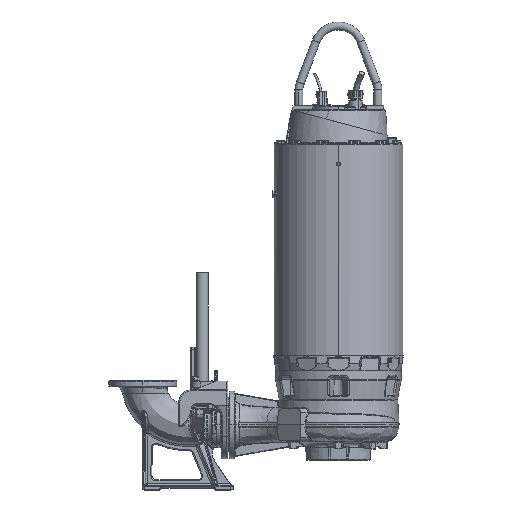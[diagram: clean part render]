
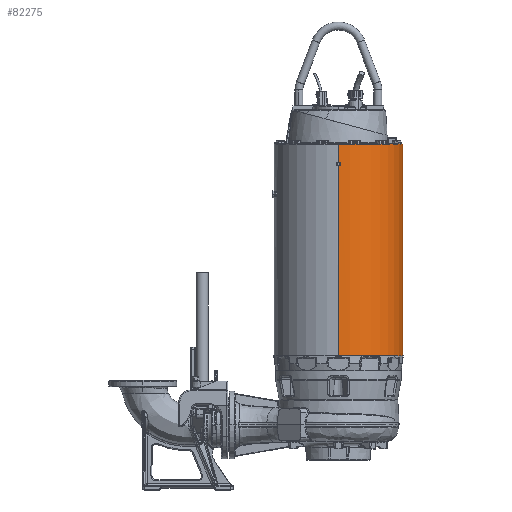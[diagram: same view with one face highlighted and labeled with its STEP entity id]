
A CAD part, top view. The second image highlights one B-rep face of the part: STEP entity #82275.
In plain terms, the highlighted cylindrical face has radius 322 mm (diameter 644 mm), a partial arc.
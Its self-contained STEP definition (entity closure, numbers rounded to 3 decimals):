
#2586 = CARTESIAN_POINT ( 'NONE',  ( 0., 1040., 0. ) ) ;
#5461 = DIRECTION ( 'NONE',  ( 0., -1., 0. ) ) ;
#7152 = DIRECTION ( 'NONE',  ( 0., -1., 0. ) ) ;
#9539 = CARTESIAN_POINT ( 'NONE',  ( 0., 950.97, 322. ) ) ;
#9601 = CARTESIAN_POINT ( 'NONE',  ( 0., 0., -322. ) ) ;
#14701 = DIRECTION ( 'NONE',  ( 0., -1., 0. ) ) ;
#25312 = AXIS2_PLACEMENT_3D ( 'NONE', #2586, #170824, #26815 ) ;
#26815 = DIRECTION ( 'NONE',  ( 0., 0., -1. ) ) ;
#26962 = VECTOR ( 'NONE', #202034, 1000. ) ;
#29564 = VERTEX_POINT ( 'NONE', #214601 ) ;
#38293 = EDGE_CURVE ( 'NONE', #133789, #164448, #212476, .T. ) ;
#39375 =( BOUNDED_CURVE ( )  B_SPLINE_CURVE ( 3, ( #234134, #262766, #114272, #282441 ),
 .UNSPECIFIED., .F., .F. ) 
 B_SPLINE_CURVE_WITH_KNOTS ( ( 4, 4 ),
 ( 1.571, 1.6 ),
 .UNSPECIFIED. ) 
 CURVE ( )  GEOMETRIC_REPRESENTATION_ITEM ( )  RATIONAL_B_SPLINE_CURVE ( ( 1., 1., 1., 1. ) ) 
 REPRESENTATION_ITEM ( '' )  );
#40856 = CARTESIAN_POINT ( 'NONE',  ( 0., -20., 322. ) ) ;
#44750 = EDGE_CURVE ( 'NONE', #275839, #278725, #213813, .T. ) ;
#59184 = CIRCLE ( 'NONE', #25312, 322. ) ;
#59469 = CARTESIAN_POINT ( 'NONE',  ( 9.5, 934.515, 321.86 ) ) ;
#63510 = CARTESIAN_POINT ( 'NONE',  ( 3.167, 930.859, -322. ) ) ;
#63982 = ORIENTED_EDGE ( 'NONE', *, *, #294024, .F. ) ;
#71267 = ORIENTED_EDGE ( 'NONE', *, *, #159444, .T. ) ;
#72684 = VERTEX_POINT ( 'NONE', #72911 ) ;
#72911 = CARTESIAN_POINT ( 'NONE',  ( 0., 929.03, -322. ) ) ;
#73998 = ORIENTED_EDGE ( 'NONE', *, *, #294832, .T. ) ;
#76657 = EDGE_CURVE ( 'NONE', #289384, #176130, #59184, .T. ) ;
#77259 = CARTESIAN_POINT ( 'NONE',  ( 0., 929.03, 322. ) ) ;
#77800 = VERTEX_POINT ( 'NONE', #159930 ) ;
#79130 = VECTOR ( 'NONE', #247537, 1000. ) ;
#80123 = ORIENTED_EDGE ( 'NONE', *, *, #44750, .T. ) ;
#82275 = ADVANCED_FACE ( 'NONE', ( #212090 ), #245817, .T. ) ;
#89362 = EDGE_CURVE ( 'NONE', #302667, #77800, #39375, .T. ) ;
#92975 =( BOUNDED_CURVE ( )  B_SPLINE_CURVE ( 3, ( #181354, #303262, #63510, #231767 ),
 .UNSPECIFIED., .F., .F. ) 
 B_SPLINE_CURVE_WITH_KNOTS ( ( 4, 4 ),
 ( 1.541, 1.571 ),
 .UNSPECIFIED. ) 
 CURVE ( )  GEOMETRIC_REPRESENTATION_ITEM ( )  RATIONAL_B_SPLINE_CURVE ( ( 1., 1., 1., 1. ) ) 
 REPRESENTATION_ITEM ( '' )  );
#107294 = CARTESIAN_POINT ( 'NONE',  ( 0., 1040., 322. ) ) ;
#109316 = VECTOR ( 'NONE', #7152, 1000. ) ;
#112091 = CARTESIAN_POINT ( 'NONE',  ( 6.334, 932.687, 321.953 ) ) ;
#114272 = CARTESIAN_POINT ( 'NONE',  ( 6.334, 947.313, -321.953 ) ) ;
#119953 = CARTESIAN_POINT ( 'NONE',  ( 0., 950.97, 322. ) ) ;
#124897 = CARTESIAN_POINT ( 'NONE',  ( 9.5, 1180.349, 321.86 ) ) ;
#125296 = CARTESIAN_POINT ( 'NONE',  ( 0., 0., 0. ) ) ;
#125337 = EDGE_CURVE ( 'NONE', #275232, #203838, #161463, .T. ) ;
#128978 = ORIENTED_EDGE ( 'NONE', *, *, #153021, .F. ) ;
#129907 = EDGE_CURVE ( 'NONE', #77800, #29564, #291007, .T. ) ;
#133789 = VERTEX_POINT ( 'NONE', #222350 ) ;
#136793 = ORIENTED_EDGE ( 'NONE', *, *, #38293, .F. ) ;
#139316 = ORIENTED_EDGE ( 'NONE', *, *, #125337, .T. ) ;
#145210 = CARTESIAN_POINT ( 'NONE',  ( 0., 950.97, -322. ) ) ;
#153021 = EDGE_CURVE ( 'NONE', #72684, #133789, #161885, .T. ) ;
#153593 = CARTESIAN_POINT ( 'NONE',  ( 3.167, 949.141, 322. ) ) ;
#154329 = VECTOR ( 'NONE', #295135, 1000. ) ;
#158131 = AXIS2_PLACEMENT_3D ( 'NONE', #158810, #14701, #182968 ) ;
#158810 = CARTESIAN_POINT ( 'NONE',  ( 0., -20., 0. ) ) ;
#159444 = EDGE_CURVE ( 'NONE', #278725, #275232, #301191, .T. ) ;
#159930 = CARTESIAN_POINT ( 'NONE',  ( 9.5, 945.485, -321.86 ) ) ;
#160533 = CARTESIAN_POINT ( 'NONE',  ( 0., 929.03, 322. ) ) ;
#161463 =( BOUNDED_CURVE ( )  B_SPLINE_CURVE ( 3, ( #280273, #112091, #304516, #160533 ),
 .UNSPECIFIED., .F., .F. ) 
 B_SPLINE_CURVE_WITH_KNOTS ( ( 4, 4 ),
 ( 1.541, 1.571 ),
 .UNSPECIFIED. ) 
 CURVE ( )  GEOMETRIC_REPRESENTATION_ITEM ( )  RATIONAL_B_SPLINE_CURVE ( ( 1., 1., 1., 1. ) ) 
 REPRESENTATION_ITEM ( '' )  );
#161885 = LINE ( 'NONE', #177380, #154329 ) ;
#164448 = VERTEX_POINT ( 'NONE', #40856 ) ;
#170824 = DIRECTION ( 'NONE',  ( 0., -1., 0. ) ) ;
#173145 = LINE ( 'NONE', #261754, #293490 ) ;
#173842 = CARTESIAN_POINT ( 'NONE',  ( 9.5, 1180.349, -321.86 ) ) ;
#176130 = VERTEX_POINT ( 'NONE', #107294 ) ;
#177380 = CARTESIAN_POINT ( 'NONE',  ( 0., 0., -322. ) ) ;
#177800 = CARTESIAN_POINT ( 'NONE',  ( 9.5, 945.485, 321.86 ) ) ;
#181354 = CARTESIAN_POINT ( 'NONE',  ( 9.5, 934.515, -321.86 ) ) ;
#182968 = DIRECTION ( 'NONE',  ( 0., 0., -1. ) ) ;
#187021 = ORIENTED_EDGE ( 'NONE', *, *, #251888, .T. ) ;
#202034 = DIRECTION ( 'NONE',  ( 0., -1., 0. ) ) ;
#202529 = CARTESIAN_POINT ( 'NONE',  ( 9.5, 945.485, 321.86 ) ) ;
#203838 = VERTEX_POINT ( 'NONE', #77259 ) ;
#207071 = LINE ( 'NONE', #223367, #79130 ) ;
#211898 = ORIENTED_EDGE ( 'NONE', *, *, #129907, .F. ) ;
#212090 = FACE_OUTER_BOUND ( 'NONE', #251947, .T. ) ;
#212476 = CIRCLE ( 'NONE', #158131, 322. ) ;
#213813 =( BOUNDED_CURVE ( )  B_SPLINE_CURVE ( 3, ( #9539, #153593, #297626, #177800 ),
 .UNSPECIFIED., .F., .T. ) 
 B_SPLINE_CURVE_WITH_KNOTS ( ( 4, 4 ),
 ( 1.571, 1.6 ),
 .UNSPECIFIED. ) 
 CURVE ( )  GEOMETRIC_REPRESENTATION_ITEM ( )  RATIONAL_B_SPLINE_CURVE ( ( 1., 1., 1., 1. ) ) 
 REPRESENTATION_ITEM ( '' )  );
#214601 = CARTESIAN_POINT ( 'NONE',  ( 9.5, 934.515, -321.86 ) ) ;
#214668 = AXIS2_PLACEMENT_3D ( 'NONE', #125296, #5461, #270351 ) ;
#222350 = CARTESIAN_POINT ( 'NONE',  ( 0., -20., -322. ) ) ;
#223367 = CARTESIAN_POINT ( 'NONE',  ( 0., 0., 322. ) ) ;
#227010 = VECTOR ( 'NONE', #270466, 1000. ) ;
#231767 = CARTESIAN_POINT ( 'NONE',  ( 0., 929.03, -322. ) ) ;
#233272 = ORIENTED_EDGE ( 'NONE', *, *, #262978, .F. ) ;
#234134 = CARTESIAN_POINT ( 'NONE',  ( 0., 950.97, -322. ) ) ;
#237760 = CARTESIAN_POINT ( 'NONE',  ( 0., 1040., -322. ) ) ;
#244539 = ORIENTED_EDGE ( 'NONE', *, *, #76657, .T. ) ;
#245817 = CYLINDRICAL_SURFACE ( 'NONE', #214668, 322. ) ;
#247537 = DIRECTION ( 'NONE',  ( 0., -1., 0. ) ) ;
#251888 = EDGE_CURVE ( 'NONE', #203838, #164448, #173145, .T. ) ;
#251947 = EDGE_LOOP ( 'NONE', ( #244539, #73998, #80123, #71267, #139316, #187021, #136793, #128978, #233272, #211898, #256579, #63982 ) ) ;
#256579 = ORIENTED_EDGE ( 'NONE', *, *, #89362, .F. ) ;
#261754 = CARTESIAN_POINT ( 'NONE',  ( 0., 0., 322. ) ) ;
#262766 = CARTESIAN_POINT ( 'NONE',  ( 3.167, 949.141, -322. ) ) ;
#262978 = EDGE_CURVE ( 'NONE', #29564, #72684, #92975, .T. ) ;
#270351 = DIRECTION ( 'NONE',  ( 0., 0., -1. ) ) ;
#270466 = DIRECTION ( 'NONE',  ( 0., -1., 0. ) ) ;
#275140 = LINE ( 'NONE', #9601, #26962 ) ;
#275232 = VERTEX_POINT ( 'NONE', #59469 ) ;
#275839 = VERTEX_POINT ( 'NONE', #119953 ) ;
#278725 = VERTEX_POINT ( 'NONE', #202529 ) ;
#280273 = CARTESIAN_POINT ( 'NONE',  ( 9.5, 934.515, 321.86 ) ) ;
#282441 = CARTESIAN_POINT ( 'NONE',  ( 9.5, 945.485, -321.86 ) ) ;
#286006 = DIRECTION ( 'NONE',  ( 0., -1., 0. ) ) ;
#289384 = VERTEX_POINT ( 'NONE', #237760 ) ;
#291007 = LINE ( 'NONE', #173842, #227010 ) ;
#293490 = VECTOR ( 'NONE', #286006, 1000. ) ;
#294024 = EDGE_CURVE ( 'NONE', #289384, #302667, #275140, .T. ) ;
#294832 = EDGE_CURVE ( 'NONE', #176130, #275839, #207071, .T. ) ;
#295135 = DIRECTION ( 'NONE',  ( 0., -1., 0. ) ) ;
#297626 = CARTESIAN_POINT ( 'NONE',  ( 6.334, 947.313, 321.953 ) ) ;
#301191 = LINE ( 'NONE', #124897, #109316 ) ;
#302667 = VERTEX_POINT ( 'NONE', #145210 ) ;
#303262 = CARTESIAN_POINT ( 'NONE',  ( 6.334, 932.687, -321.953 ) ) ;
#304516 = CARTESIAN_POINT ( 'NONE',  ( 3.167, 930.859, 322. ) ) ;
